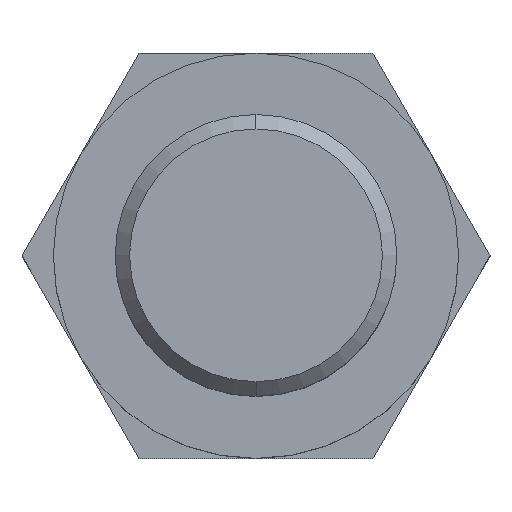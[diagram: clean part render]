
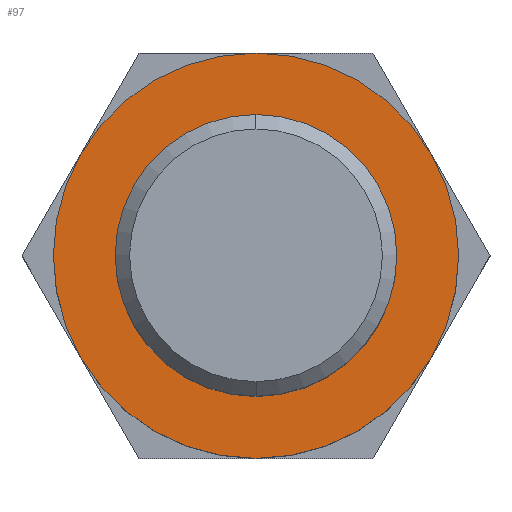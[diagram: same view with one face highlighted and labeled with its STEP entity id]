
A CAD part, top view. The second image highlights one B-rep face of the part: STEP entity #97.
In plain terms, the highlighted planar face has unit normal (0, 0, 1).
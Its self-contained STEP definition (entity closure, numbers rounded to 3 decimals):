
#97 = ADVANCED_FACE( '', ( #147, #148 ), #149, .T. );
#147 = FACE_BOUND( '', #201, .T. );
#148 = FACE_OUTER_BOUND( '', #202, .T. );
#149 = PLANE( '', #203 );
#201 = EDGE_LOOP( '', ( #370, #371 ) );
#202 = EDGE_LOOP( '', ( #372, #373 ) );
#203 = AXIS2_PLACEMENT_3D( '', #374, #375, #376 );
#370 = ORIENTED_EDGE( '', *, *, #401, .F. );
#371 = ORIENTED_EDGE( '', *, *, #447, .F. );
#372 = ORIENTED_EDGE( '', *, *, #408, .T. );
#373 = ORIENTED_EDGE( '', *, *, #446, .T. );
#374 = CARTESIAN_POINT( '', ( 0., 5.933, 0. ) );
#375 = DIRECTION( '', ( 0., 0., 1. ) );
#376 = DIRECTION( '', ( 0., 1., 0. ) );
#401 = EDGE_CURVE( '', #458, #460, #461, .T. );
#408 = EDGE_CURVE( '', #464, #472, #474, .T. );
#446 = EDGE_CURVE( '', #472, #464, #532, .T. );
#447 = EDGE_CURVE( '', #460, #458, #533, .T. );
#458 = VERTEX_POINT( '', #546 );
#460 = VERTEX_POINT( '', #549 );
#461 = CIRCLE( '', #550, 4.865 );
#464 = VERTEX_POINT( '', #554 );
#472 = VERTEX_POINT( '', #563 );
#474 = CIRCLE( '', #566, 7. );
#532 = CIRCLE( '', #652, 7. );
#533 = CIRCLE( '', #653, 4.865 );
#546 = CARTESIAN_POINT( '', ( 0., 4.865, 0. ) );
#549 = CARTESIAN_POINT( '', ( 0., -4.865, 0. ) );
#550 = AXIS2_PLACEMENT_3D( '', #665, #666, #667 );
#554 = CARTESIAN_POINT( '', ( 0., 7., 0. ) );
#563 = CARTESIAN_POINT( '', ( 0., -7., 0. ) );
#566 = AXIS2_PLACEMENT_3D( '', #680, #681, #682 );
#652 = AXIS2_PLACEMENT_3D( '', #738, #739, #740 );
#653 = AXIS2_PLACEMENT_3D( '', #741, #742, #743 );
#665 = CARTESIAN_POINT( '', ( 0., 0., 0. ) );
#666 = DIRECTION( '', ( 0., 0., 1. ) );
#667 = DIRECTION( '', ( 0., 1., 0. ) );
#680 = CARTESIAN_POINT( '', ( 0., 0., 0. ) );
#681 = DIRECTION( '', ( 0., 0., 1. ) );
#682 = DIRECTION( '', ( 0., 1., 0. ) );
#738 = CARTESIAN_POINT( '', ( 0., 0., 0. ) );
#739 = DIRECTION( '', ( 0., 0., 1. ) );
#740 = DIRECTION( '', ( 0., 1., 0. ) );
#741 = CARTESIAN_POINT( '', ( 0., 0., 0. ) );
#742 = DIRECTION( '', ( 0., 0., 1. ) );
#743 = DIRECTION( '', ( 0., 1., 0. ) );
